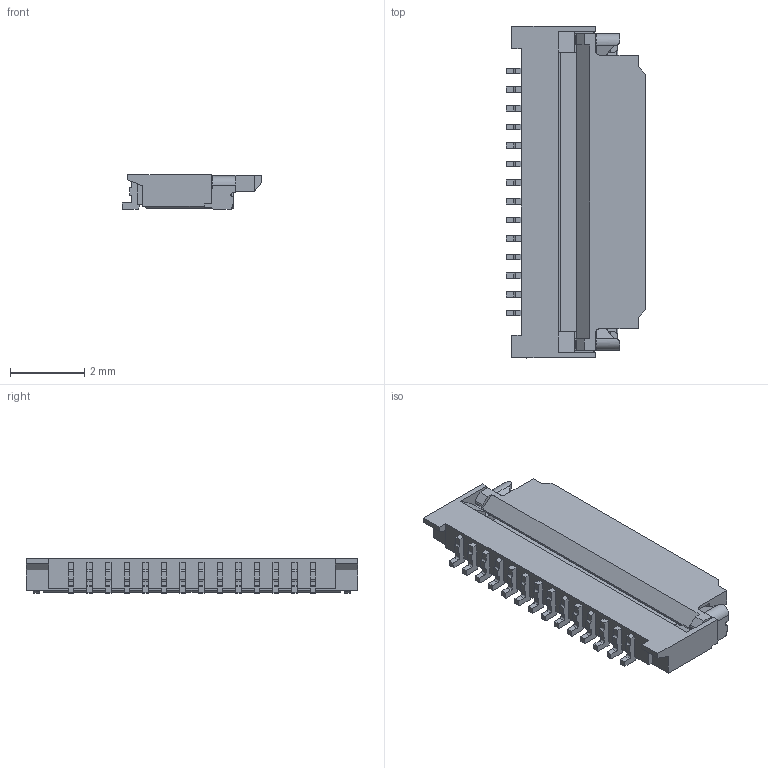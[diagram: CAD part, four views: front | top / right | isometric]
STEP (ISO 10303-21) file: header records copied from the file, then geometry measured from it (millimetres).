
FILE_DESCRIPTION (( 'STEP AP214' ), '1' );
FILE_NAME ('006809614020.STEP', '2023-02-28T04:42:05', ( '' ), ( '' ), 'SwSTEP 2.0', 'SolidWorks 2021', '' );
FILE_SCHEMA (( 'AUTOMOTIVE_DESIGN' ));
Length unit declared in the file: millimetre
Products named in the file (1): 006809614020
Bounding box: 3.75 x 8.92 x 0.93 mm (x, y, z)
Volume: 16.2 mm3; surface area: 118.9 mm2
Topology: 1 solids, 1 shells, 445 faces, 1309 edges, 864 vertices
Faces by surface type: plane 334, cylinder 111
Entity records: 14913 total; most frequent: CARTESIAN_POINT 3199, ORIENTED_EDGE 2618, DIRECTION 2229, EDGE_CURVE 1309, LINE 937, VECTOR 937, VERTEX_POINT 864, AXIS2_PLACEMENT_3D 646
